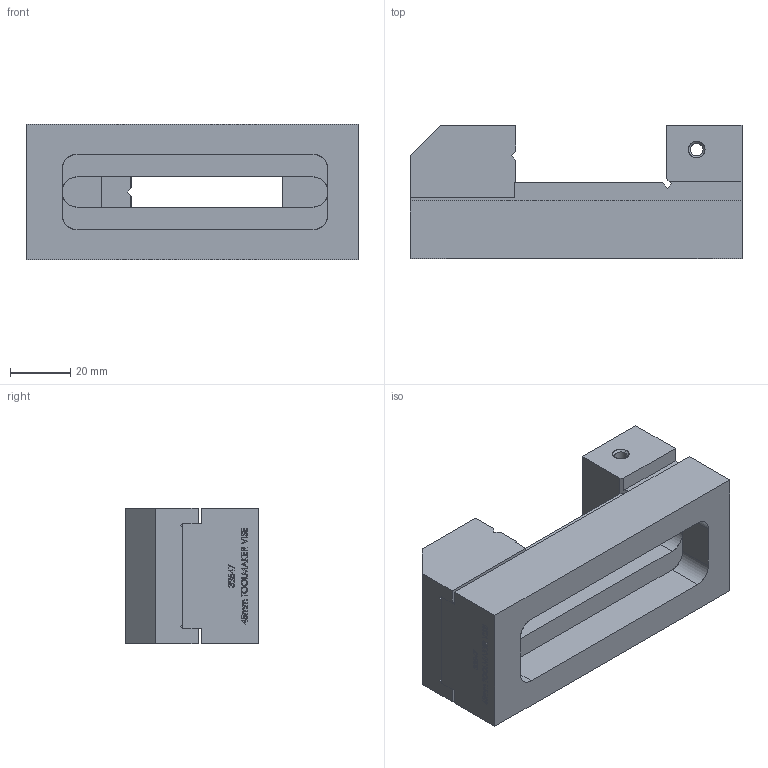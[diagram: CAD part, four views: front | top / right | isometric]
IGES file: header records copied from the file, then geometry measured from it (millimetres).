
Start section: SolidWorks IGES file using analytic representation for surfaces
Global section: file name: \\tormach-dc\Published Documents\Drawings\Files saved as other types\Solid_Models\MODELS FOR PUBLIC\32547 45mm TOOLMAKER VISE.IGS; native system: SolidWorks 2014; preprocessor: SolidWorks 2014; author: rtooley; date: 160601.102940; units: millimetre
Bounding box: 110 x 44 x 45 mm (x, y, z)
Surface area: 31953.8 mm2 (no closed solid volume)
Topology: 0 solids, 0 shells, 363 faces, 3558 edges, 3558 vertices
Faces by surface type: bspline 351, revolution 12
